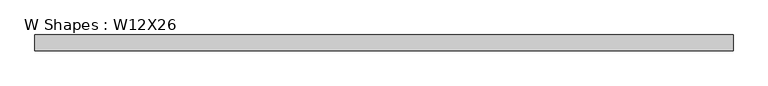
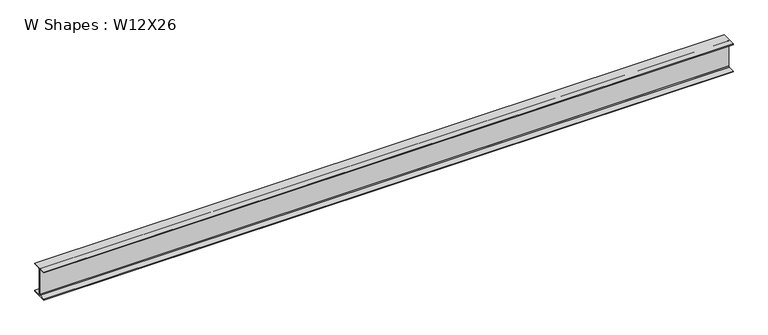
"""IFC4 building model written with IfcOpenShell, lengths in millimetres: beam geometry, W Shapes : W12X26."""

from ifc_helpers import new_model, si_unit, point, frame, frame_2d, origin, place, context, project, spatial, polyline, circle_curve, trimmed, segment, composite_curve, outline, extrude, source, transform, mapped, element, save


def w_shapes_w12x26_ad648731(model_context):
    return source(origin(), model_context, "Body", "SweptSolid", [
        extrude(outline(composite_curve([segment(polyline([(82.423, -145.288), (82.423, -154.94), (-82.423, -154.94), (-82.423, -145.288), (-10.541, -145.288)]), True, "CONTINUOUS"), segment(trimmed(circle_curve(frame_2d((-10.541, -137.668)), 7.62), [point((-10.541, -145.288))], [point((-2.921, -137.668))], True, "CARTESIAN"), True, "CONTINUOUS"), segment(polyline([(-2.921, -137.668), (-2.921, 137.668)]), True, "CONTINUOUS"), segment(trimmed(circle_curve(frame_2d((-10.541, 137.668)), 7.62), [point((-2.921, 137.668))], [point((-10.541, 145.288))], True, "CARTESIAN"), True, "CONTINUOUS"), segment(polyline([(-10.541, 145.288), (-82.423, 145.288), (-82.423, 154.94), (82.423, 154.94), (82.423, 145.288), (10.541, 145.288)]), True, "CONTINUOUS"), segment(trimmed(circle_curve(frame_2d((10.541, 137.668)), 7.62), [point((10.541, 145.288))], [point((2.921, 137.668))], True, "CARTESIAN"), True, "CONTINUOUS"), segment(polyline([(2.921, 137.668), (2.921, -137.668)]), True, "CONTINUOUS"), segment(trimmed(circle_curve(frame_2d((10.541, -137.668)), 7.62), [point((2.921, -137.668))], [point((10.541, -145.288))], True, "CARTESIAN"), True, "CONTINUOUS"), segment(polyline([(10.541, -145.288), (82.423, -145.288)]), True, "CONTINUOUS")], self_intersect=False)), frame((-3605.3195039, 0.0, 0.0), z_axis=(1.0, 0.0, 0.0), x_axis=(0.0, 1.0, 0.0)), (0.0, 0.0, 1.0), 7227.2180623),
    ])


if __name__ == "__main__":
    model = new_model("IFC4")
    model_context = context("Model", 3, world=origin())
    ifc_project = project(units=[si_unit("LENGTHUNIT", "METRE", prefix="MILLI")], contexts=[model_context])
    site = spatial("IfcSite", under=ifc_project)
    building = spatial("IfcBuilding", under=site)
    placement = place(None, origin())
    w_shapes_w12x26_shape = w_shapes_w12x26_ad648731(model_context)
    element("IfcBeam", 1, ObjectType="W Shapes : W12X26", at=placement, inside=building, context=model_context, shape_type="MappedRepresentation", body=[
        mapped(w_shapes_w12x26_shape, transform((0.0, 0.0, 0.0), x_axis=(1.0, 0.0, 0.0), y_axis=(0.0, 1.0, 0.0), z_axis=(0.0, 0.0, 1.0))),
    ])
    save(model, "model.ifc")
